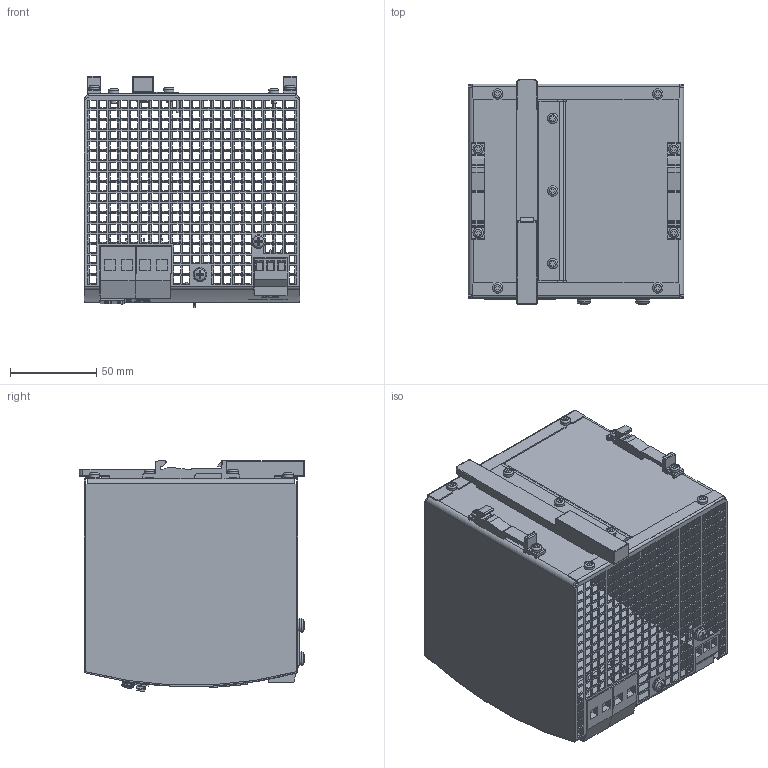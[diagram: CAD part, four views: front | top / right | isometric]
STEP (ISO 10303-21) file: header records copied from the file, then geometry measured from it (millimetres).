
FILE_DESCRIPTION((''),'2;1');
FILE_NAME('C:\Users\rahns\Desktop\Sylvia Info´s\Dateien für Vertrieb\QS40\484\md4_qs40_484.stp','2012-06-11T11:36:54',('rahns'),(''),'Autodesk Inventor 2009','Autodesk Inventor 2009','');
FILE_SCHEMA(('AUTOMOTIVE_DESIGN { 1 0 10303 214 1 1 1 1 }'));
Length unit declared in the file: millimetre
Products named in the file (17): 364; HOUSING COVER 364; HOUSING BODY L 364; HOUSING BODY 364; TERMINAL 3POL R6,35 SCREW; TERMINAL 2POL R10,16 SCREW; TERMINAL 4POL R5; JUMPER; JUMPER BRACKET; POTENTIOMETER COVER; SCREW 3x6; T HOLDER; SLIDER; SCREW 4x8; WASHER 4; LED GN; LED RD
Assembly tree (30 placements, depth 2):
  364
    HOUSING COVER 364
    HOUSING BODY L 364
    HOUSING BODY 364
    TERMINAL 3POL R6,35 SCREW
    TERMINAL 2POL R10,16 SCREW  x2
    TERMINAL 4POL R5
    JUMPER
    JUMPER BRACKET
    POTENTIOMETER COVER
    SCREW 3x6  x11
    T HOLDER  x2
    SLIDER
    SCREW 4x8  x2
    WASHER 4  x2
    LED GN
    LED RD
Bounding box: 125 x 130.77 x 134.16 mm (x, y, z)
Volume: 132669.1 mm3; surface area: 179885.8 mm2
Topology: 30 solids, 30 shells, 4921 faces, 13902 edges, 9247 vertices
Faces by surface type: plane 4011, bspline 492, cylinder 330, torus 37, cone 37, sphere 14
Full cylindrical faces by diameter (mm): 0.8 x8, 1 x2, 3 x11, 3.1 x4, 3.2 x2, 3.621 x2, 4 x2, 4.199 x1, 4.355 x1, 4.5 x4, 4.6 x2, 4.899 x1, 5.15 x3, 5.5 x4, 6 x11
Entity records: 161798 total; most frequent: CARTESIAN_POINT 40279, ORIENTED_EDGE 26244, DIRECTION 21402, EDGE_CURVE 13122, VECTOR 11114, LINE 11114, VERTEX_POINT 8745, EDGE_LOOP 6199
